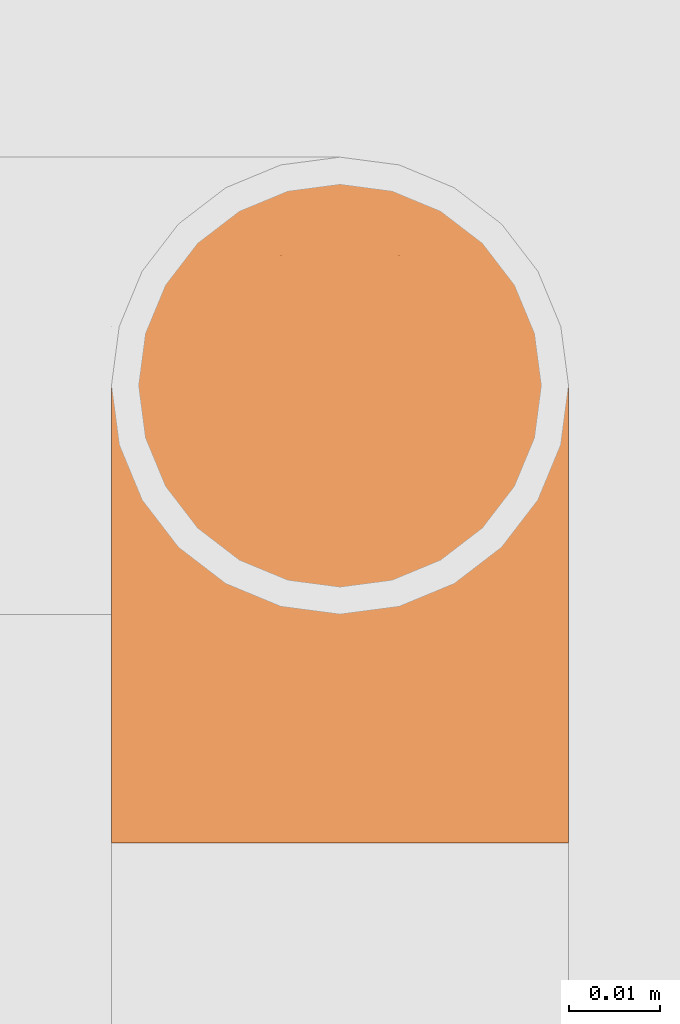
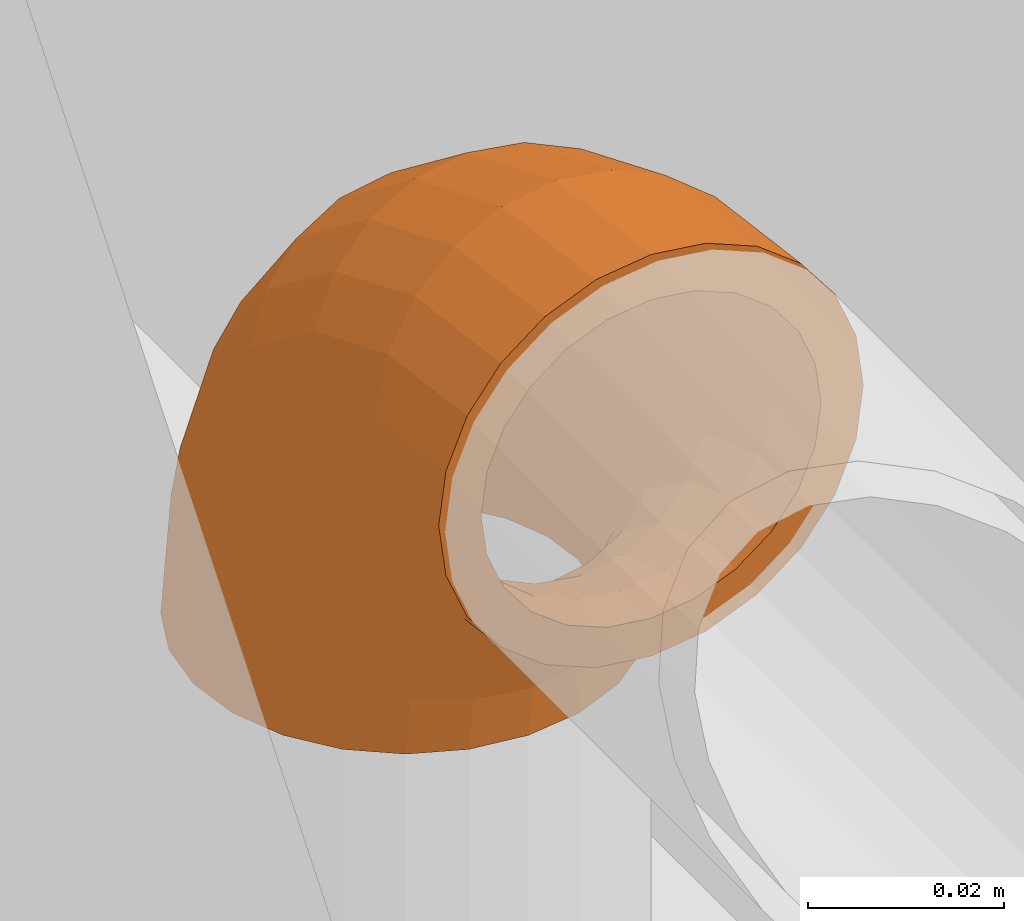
# One storey, part 110 of 112: 1 proxy.
"""IFC2X3 building model written with IfcOpenShell, lengths in millimetres."""

from ifc_helpers import new_model, entity, si_unit, converted_unit, derived_unit, money_unit, direction, frame, origin_with_axes, place, context, subcontext, project, spatial, faceted_brep, type_object, element, save


model = new_model("IFC2X3")

# Units and contexts
model_context = context("Model", 3, precision=0.01, world=origin_with_axes(), true_north=direction((0.0, 1.0)))
body_context = subcontext(model_context, "Body", "Model", "MODEL_VIEW")
ifc_project = project(units=[si_unit("LENGTHUNIT", "METRE", prefix="MILLI"), si_unit("AREAUNIT", "SQUARE_METRE"), si_unit("VOLUMEUNIT", "CUBIC_METRE"), converted_unit("PLANEANGLEUNIT", "DEGREE", entity("IfcPlaneAngleMeasure", 0.0174532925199), si_unit("PLANEANGLEUNIT", "RADIAN"), dimensions=[0, 0, 0, 0, 0, 0, 0]), si_unit("SOLIDANGLEUNIT", "STERADIAN"), money_unit("EUR"), converted_unit("TIMEUNIT", "Year", entity("IfcTimeMeasure", 31556926.0), si_unit("TIMEUNIT", "SECOND"), dimensions=[0, 0, 1, 0, 0, 0, 0]), si_unit("MASSUNIT", "GRAM", prefix="KILO"), si_unit("THERMODYNAMICTEMPERATUREUNIT", "DEGREE_CELSIUS"), si_unit("LUMINOUSINTENSITYUNIT", "LUMEN"), si_unit("ENERGYUNIT", "JOULE", prefix="MEGA"), derived_unit("THERMALCONDUCTANCEUNIT", [(si_unit("POWERUNIT", "WATT"), 1), (si_unit("LENGTHUNIT", "METRE"), -1), (si_unit("THERMODYNAMICTEMPERATUREUNIT", "KELVIN"), -1)]), derived_unit("SPECIFICHEATCAPACITYUNIT", [(si_unit("ENERGYUNIT", "JOULE"), 1), (si_unit("MASSUNIT", "GRAM", prefix="KILO"), -1), (si_unit("THERMODYNAMICTEMPERATUREUNIT", "KELVIN"), -1)]), derived_unit("MASSDENSITYUNIT", [(si_unit("MASSUNIT", "GRAM", prefix="KILO"), 1), (si_unit("VOLUMEUNIT", "CUBIC_METRE"), -1)])], contexts=[model_context])

# Site, building, storey
site_placement = place(None, origin_with_axes())
site = spatial("IfcSite", under=ifc_project, at=site_placement, Name="Politse- ja Piirivalveameti ning Päästeameti ühishoone", CompositionType="ELEMENT")
building_placement = place(site_placement, origin_with_axes())
building = spatial("IfcBuilding", under=site, at=building_placement, Name="Politse- ja Piirivalveameti ning Päästeameti ühishoone", CompositionType="ELEMENT")
storey_placement = place(building_placement, origin_with_axes())
storey = spatial("IfcBuildingStorey", under=building, at=storey_placement, Name="Esimene korrus", CompositionType="ELEMENT", Elevation=0.0)

# Proxy
building_element_proxy_type = type_object("IfcBuildingElementProxyType", Name="Elbow Tube 23", PredefinedType="NOTDEFINED")
proxy_placement = place(storey_placement, frame((63110.6441918, 20253.9447321, 2875.0), z_axis=(0.0, 0.0, 1.0), x_axis=(0.0, 1.0, 0.0)))
element("IfcBuildingElementProxy", 1, at=proxy_placement, inside=storey, type_object=building_element_proxy_type, Name="Balloon Novec 1232", context=body_context, shape_type="Brep", body=[
    faceted_brep([(-24.1481456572, 6.47047612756, 0.0), (-21.6506350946, 12.5, 0.0), (-17.6776695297, 17.6776695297, 0.0), (-12.5, 21.6506350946, 0.0), (-6.47047612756, 24.1481456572, 0.0), (0.0, 25.0, 0.0), (6.47047612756, 24.1481456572, 0.0), (12.5, 21.6506350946, 0.0), (17.6776695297, 17.6776695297, 0.0), (21.6506350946, 12.5, 0.0), (24.1481456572, 6.47047612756, 0.0), (25.0, 0.0, 0.0), (24.1481456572, -6.47047612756, 0.0), (21.6506350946, -12.5, 0.0), (17.6776695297, -17.6776695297, 0.0), (12.5, -21.6506350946, 0.0), (6.47047612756, -24.1481456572, 0.0), (0.0, -25.0, 0.0), (-6.47047612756, -24.1481456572, 0.0), (-12.5, -21.6506350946, 0.0), (-17.6776695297, -17.6776695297, 0.0), (-21.6506350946, -12.5, 0.0), (-24.1481456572, -6.47047612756, 0.0), (-25.0, 0.0, 0.0), (-17.6107524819, -10.0, 0.0), (-14.4606088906, -14.1421356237, 0.0), (-10.3552618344, -17.3205080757, 0.0), (-5.57448393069, -19.3185165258, 0.0), (-0.444077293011, -20.0, 0.0), (4.68632934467, -19.3185165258, 0.0), (9.46710724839, -17.3205080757, 0.0), (13.5724543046, -14.1421356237, 0.0), (16.7225978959, -10.0, 0.0), (18.7028609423, -5.17638090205, 0.0), (19.3782917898, 0.0, 0.0), (18.7028609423, 5.17638090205, 0.0), (16.7225978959, 10.0, 0.0), (13.5724543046, 14.1421356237, 0.0), (9.46710724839, 17.3205080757, 0.0), (4.68632934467, 19.3185165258, 0.0), (-0.444077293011, 20.0, 0.0), (-5.57448393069, 19.3185165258, 0.0), (-10.3552618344, 17.3205080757, 0.0), (-14.4606088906, 14.1421356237, 0.0), (-17.6107524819, 10.0, 0.0), (-19.5910155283, 5.17638090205, 0.0), (-20.2664463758, 0.0, 0.0), (-19.5910155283, -5.17638090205, 0.0), (-22.616616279, 12.5, 7.33735555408), (-25.0290262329, 6.47047612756, 6.69095225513), (-18.7790262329, 17.6776695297, 8.36563470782), (-13.7777815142, 21.6506350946, 9.70571419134), (-7.95370868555, 24.1481456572, 11.2662698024), (-1.70370868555, 25.0, 12.9409522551), (4.54629131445, 24.1481456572, 14.6156347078), (10.3703641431, 21.6506350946, 16.1761903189), (15.3716088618, 17.6776695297, 17.5162698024), (19.2091989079, 12.5, 18.5445489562), (21.6216088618, 6.47047612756, 19.1909522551), (22.4444369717, 0.0, 19.4114283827), (21.6216088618, -6.47047612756, 19.1909522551), (19.2091989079, -12.5, 18.5445489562), (15.3716088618, -17.6776695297, 17.5162698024), (10.3703641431, -21.6506350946, 16.1761903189), (4.54629131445, -24.1481456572, 14.6156347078), (-1.70370868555, -25.0, 12.9409522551), (-7.95370868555, -24.1481456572, 11.2662698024), (-13.7777815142, -21.6506350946, 9.70571419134), (-18.7790262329, -17.6776695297, 8.36563470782), (-22.616616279, -12.5, 7.33735555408), (-25.0290262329, -6.47047612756, 6.69095225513), (-25.8518543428, 0.0, 6.47047612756), (-17.9956460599, -10.0, 6.60836752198), (-14.8829368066, -14.1421356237, 7.25109028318), (-10.8263751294, -17.3205080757, 8.08870289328), (-6.10240900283, -19.3185165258, 9.06412343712), (-1.03296891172, -20.0, 10.1108786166), (4.03647117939, -19.3185165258, 11.1576337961), (8.76043730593, -17.3205080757, 12.1330543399), (12.8169989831, -14.1421356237, 12.97066695), (15.9297082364, -10.0, 13.6133897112), (17.8864390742, -5.17638090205, 14.0174221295), (18.5538435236, 0.0, 14.1552300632), (17.8864390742, 5.17638090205, 14.0174221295), (15.9297082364, 10.0, 13.6133897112), (12.8169989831, 14.1421356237, 12.97066695), (8.76043730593, 17.3205080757, 12.1330543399), (4.03647117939, 19.3185165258, 11.1576337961), (-1.03296891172, 20.0, 10.1108786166), (-6.10240900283, 19.3185165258, 9.06412343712), (-10.8263751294, 17.3205080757, 8.08870289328), (-14.8829368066, 14.1421356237, 7.25109028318), (-17.9956460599, 10.0, 6.60836752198), (-19.9523768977, 5.17638090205, 6.2043351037), (-20.619781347, 0.0, 6.06652716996), (-19.9523768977, -5.17638090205, 6.2043351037), (-25.4487298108, 12.5, 14.1746824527), (-27.6116374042, 6.47047612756, 12.9259271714), (-22.0080407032, 17.6776695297, 16.1611652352), (-17.5240473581, 21.6506350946, 18.75), (-12.3023265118, 24.1481456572, 21.7647619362), (-6.69872981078, 25.0, 25.0), (-1.09513310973, 24.1481456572, 28.2352380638), (4.12658773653, 21.6506350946, 31.25), (8.61058108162, 17.6776695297, 33.8388347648), (12.0512701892, 12.5, 35.8253175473), (14.2141777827, 6.47047612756, 37.0740728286), (14.9519052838, 0.0, 37.5), (14.2141777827, -6.47047612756, 37.0740728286), (12.0512701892, -12.5, 35.8253175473), (8.61058108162, -17.6776695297, 33.8388347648), (4.12658773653, -21.6506350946, 31.25), (-1.09513310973, -24.1481456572, 28.2352380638), (-6.69872981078, -25.0, 25.0), (-12.3023265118, -24.1481456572, 21.7647619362), (-17.5240473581, -21.6506350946, 18.75), (-22.0080407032, -17.6776695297, 16.1611652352), (-25.4487298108, -12.5, 14.1746824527), (-27.6116374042, -6.47047612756, 12.9259271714), (-28.3493649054, 0.0, 12.5), (-18.4378578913, -14.1421356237, 17.0181556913), (-21.2354657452, -10.0, 15.5096989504), (-14.7919443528, -17.3205080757, 18.9840147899), (-10.5461881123, -19.3185165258, 21.2733061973), (-5.98993044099, -20.0, 23.7300184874), (-1.43367276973, -19.3185165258, 26.1867307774), (2.81208347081, -17.3205080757, 28.4760221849), (6.45799700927, -14.1421356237, 30.4418812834), (9.25560486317, -10.0, 31.9503380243), (11.0142546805, -5.17638090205, 32.8985935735), (11.6140973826, 0.0, 33.2220258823), (11.0142546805, 5.17638090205, 32.8985935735), (9.25560486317, 10.0, 31.9503380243), (6.45799700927, 14.1421356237, 30.4418812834), (2.81208347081, 17.3205080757, 28.4760221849), (-1.43367276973, 19.3185165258, 26.1867307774), (-5.98993044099, 20.0, 23.7300184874), (-10.5461881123, 19.3185165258, 21.2733061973), (-14.7919443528, 17.3205080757, 18.9840147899), (-18.4378578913, 14.1421356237, 17.0181556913), (-21.2354657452, 10.0, 15.5096989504), (-22.9941155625, 5.17638090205, 14.5614434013), (-23.5939582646, 0.0, 14.2380110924), (-22.9941155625, -5.17638090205, 14.5614434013), (-29.9539718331, 12.5, 20.0460281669), (-31.719978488, 6.47047612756, 18.280021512), (-27.1446609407, 17.6776695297, 22.8553390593), (-23.4834957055, 21.6506350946, 26.5165042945), (-19.219978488, 24.1481456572, 30.780021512), (-14.6446609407, 25.0, 35.3553390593), (-10.0693433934, 24.1481456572, 39.9306566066), (-5.80582617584, 21.6506350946, 44.1941738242), (-2.14466094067, 17.6776695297, 47.8553390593), (0.664649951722, 12.5, 50.6646499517), (2.43065660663, 6.47047612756, 52.4306566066), (3.03300858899, 0.0, 53.033008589), (2.43065660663, -6.47047612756, 52.4306566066), (0.664649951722, -12.5, 50.6646499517), (-2.14466094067, -17.6776695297, 47.8553390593), (-5.80582617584, -21.6506350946, 44.1941738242), (-10.0693433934, -24.1481456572, 39.9306566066), (-14.6446609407, -25.0, 35.3553390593), (-19.219978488, -24.1481456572, 30.780021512), (-23.4834957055, -21.6506350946, 26.5165042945), (-27.1446609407, -17.6776695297, 22.8553390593), (-29.9539718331, -12.5, 20.0460281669), (-31.719978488, -6.47047612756, 18.280021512), (-32.3223304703, 0.0, 17.6776695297), (-24.6446609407, -14.1421356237, 25.3553390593), (-26.8921096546, -10.0, 23.1078903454), (-21.7157287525, -17.3205080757, 28.2842712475), (-18.3049149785, -19.3185165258, 31.6950850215), (-14.6446609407, -20.0, 35.3553390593), (-10.9844069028, -19.3185165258, 39.0155930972), (-7.57359312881, -17.3205080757, 42.4264068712), (-4.64466094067, -14.1421356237, 45.3553390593), (-2.39721222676, -10.0, 47.6027877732), (-0.984406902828, -5.17638090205, 49.0155930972), (-0.502525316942, 0.0, 49.4974746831), (-0.984406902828, 5.17638090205, 49.0155930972), (-2.39721222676, 10.0, 47.6027877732), (-4.64466094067, 14.1421356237, 45.3553390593), (-7.57359312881, 17.3205080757, 42.4264068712), (-10.9844069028, 19.3185165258, 39.0155930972), (-14.6446609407, 20.0, 35.3553390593), (-18.3049149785, 19.3185165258, 31.6950850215), (-21.7157287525, 17.3205080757, 28.2842712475), (-24.6446609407, 14.1421356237, 25.3553390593), (-26.8921096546, 10.0, 23.1078903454), (-28.3049149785, 5.17638090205, 21.6950850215), (-28.7867965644, 0.0, 21.2132034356), (-28.3049149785, -5.17638090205, 21.6950850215), (-35.8253175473, 12.5, 24.5512701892), (-37.0740728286, 6.47047612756, 22.3883625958), (-33.8388347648, 17.6776695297, 27.9919592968), (-31.25, 21.6506350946, 32.4759526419), (-28.2352380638, 24.1481456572, 37.6976734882), (-25.0, 25.0, 43.3012701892), (-21.7647619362, 24.1481456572, 48.9048668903), (-18.75, 21.6506350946, 54.1265877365), (-16.1611652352, 17.6776695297, 58.6105810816), (-14.1746824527, 12.5, 62.0512701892), (-12.9259271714, 6.47047612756, 64.2141777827), (-12.5, 0.0, 64.9519052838), (-12.9259271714, -6.47047612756, 64.2141777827), (-14.1746824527, -12.5, 62.0512701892), (-16.1611652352, -17.6776695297, 58.6105810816), (-18.75, -21.6506350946, 54.1265877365), (-21.7647619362, -24.1481456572, 48.9048668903), (-25.0, -25.0, 43.3012701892), (-28.2352380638, -24.1481456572, 37.6976734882), (-31.25, -21.6506350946, 32.4759526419), (-33.8388347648, -17.6776695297, 27.9919592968), (-35.8253175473, -12.5, 24.5512701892), (-37.0740728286, -6.47047612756, 22.3883625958), (-37.5, 0.0, 21.6506350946), (-32.9818443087, -14.1421356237, 31.5621421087), (-34.4903010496, -10.0, 28.7645342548), (-31.0159852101, -17.3205080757, 35.2080556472), (-28.7266938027, -19.3185165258, 39.4538118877), (-26.2699815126, -20.0, 44.010069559), (-23.8132692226, -19.3185165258, 48.5663272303), (-21.5239778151, -17.3205080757, 52.8120834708), (-19.5581187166, -14.1421356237, 56.4579970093), (-18.0496619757, -10.0, 59.2556048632), (-17.1014064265, -5.17638090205, 61.0142546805), (-16.7779741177, 0.0, 61.6140973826), (-17.1014064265, 5.17638090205, 61.0142546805), (-18.0496619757, 10.0, 59.2556048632), (-19.5581187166, 14.1421356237, 56.4579970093), (-21.5239778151, 17.3205080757, 52.8120834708), (-23.8132692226, 19.3185165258, 48.5663272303), (-26.2699815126, 20.0, 44.010069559), (-28.7266938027, 19.3185165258, 39.4538118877), (-31.0159852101, 17.3205080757, 35.2080556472), (-32.9818443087, 14.1421356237, 31.5621421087), (-34.4903010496, 10.0, 28.7645342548), (-35.4385565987, 5.17638090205, 27.0058844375), (-35.7619889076, 0.0, 26.4060417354), (-35.4385565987, -5.17638090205, 27.0058844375), (-42.6626444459, 12.5, 27.383383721), (-43.3090477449, 6.47047612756, 24.9709737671), (-41.6343652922, 17.6776695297, 31.2209737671), (-40.2942858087, 21.6506350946, 36.2222184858), (-38.7337301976, 24.1481456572, 42.0462913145), (-37.0590477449, 25.0, 48.2962913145), (-35.3843652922, 24.1481456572, 54.5462913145), (-33.8238096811, 21.6506350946, 60.3703641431), (-32.4837301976, 17.6776695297, 65.3716088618), (-31.4554510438, 12.5, 69.2091989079), (-30.8090477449, 6.47047612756, 71.6216088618), (-30.5885716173, 0.0, 72.4444369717), (-30.8090477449, -6.47047612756, 71.6216088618), (-31.4554510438, -12.5, 69.2091989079), (-32.4837301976, -17.6776695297, 65.3716088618), (-33.8238096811, -21.6506350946, 60.3703641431), (-35.3843652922, -24.1481456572, 54.5462913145), (-37.0590477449, -25.0, 48.2962913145), (-38.7337301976, -24.1481456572, 42.0462913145), (-40.2942858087, -21.6506350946, 36.2222184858), (-41.6343652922, -17.6776695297, 31.2209737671), (-42.6626444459, -12.5, 27.383383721), (-43.3090477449, -6.47047612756, 24.9709737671), (-43.5295238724, 0.0, 24.1481456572), (-42.7489097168, -14.1421356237, 35.1170631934), (-43.391632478, -10.0, 32.0043539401), (-41.9112971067, -17.3205080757, 39.1736248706), (-40.9358765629, -19.3185165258, 43.8975909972), (-39.8891213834, -20.0, 48.9670310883), (-38.8423662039, -19.3185165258, 54.0364711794), (-37.8669456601, -17.3205080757, 58.7604373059), (-37.02933305, -14.1421356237, 62.8169989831), (-36.3866102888, -10.0, 65.9297082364), (-35.9825778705, -5.17638090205, 67.8864390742), (-35.8447699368, 0.0, 68.5538435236), (-35.9825778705, 5.17638090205, 67.8864390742), (-36.3866102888, 10.0, 65.9297082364), (-37.02933305, 14.1421356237, 62.8169989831), (-37.8669456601, 17.3205080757, 58.7604373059), (-38.8423662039, 19.3185165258, 54.0364711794), (-39.8891213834, 20.0, 48.9670310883), (-40.9358765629, 19.3185165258, 43.8975909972), (-41.9112971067, 17.3205080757, 39.1736248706), (-42.7489097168, 14.1421356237, 35.1170631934), (-43.391632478, 10.0, 32.0043539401), (-43.7956648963, 5.17638090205, 30.0476231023), (-43.93347283, 0.0, 29.380218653), (-43.7956648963, -5.17638090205, 30.0476231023), (-50.0, 12.5, 28.3493649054), (-50.0, 6.47047612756, 25.8518543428), (-50.0, 17.6776695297, 32.3223304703), (-50.0, 21.6506350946, 37.5), (-50.0, 24.1481456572, 43.5295238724), (-50.0, 25.0, 50.0), (-50.0, 24.1481456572, 56.4704761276), (-50.0, 21.6506350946, 62.5), (-50.0, 17.6776695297, 67.6776695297), (-50.0, 12.5, 71.6506350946), (-50.0, 6.47047612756, 74.1481456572), (-50.0, 0.0, 75.0), (-50.0, -6.47047612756, 74.1481456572), (-50.0, -12.5, 71.6506350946), (-50.0, -17.6776695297, 67.6776695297), (-50.0, -21.6506350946, 62.5), (-50.0, -24.1481456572, 56.4704761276), (-50.0, -25.0, 50.0), (-50.0, -24.1481456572, 43.5295238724), (-50.0, -21.6506350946, 37.5), (-50.0, -17.6776695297, 32.3223304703), (-50.0, -12.5, 28.3493649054), (-50.0, -6.47047612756, 25.8518543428), (-50.0, 0.0, 25.0), (-50.0, -14.1421356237, 35.5393911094), (-50.0, -10.0, 32.3892475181), (-50.0, -17.3205080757, 39.6447381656), (-50.0, -19.3185165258, 44.4255160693), (-50.0, -20.0, 49.555922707), (-50.0, -19.3185165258, 54.6863293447), (-50.0, -17.3205080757, 59.4671072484), (-50.0, -14.1421356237, 63.5724543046), (-50.0, -10.0, 66.7225978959), (-50.0, -5.17638090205, 68.7028609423), (-50.0, 0.0, 69.3782917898), (-50.0, 5.17638090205, 68.7028609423), (-50.0, 10.0, 66.7225978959), (-50.0, 14.1421356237, 63.5724543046), (-50.0, 17.3205080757, 59.4671072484), (-50.0, 19.3185165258, 54.6863293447), (-50.0, 20.0, 49.555922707), (-50.0, 19.3185165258, 44.4255160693), (-50.0, 17.3205080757, 39.6447381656), (-50.0, 14.1421356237, 35.5393911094), (-50.0, 10.0, 32.3892475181), (-50.0, 5.17638090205, 30.4089844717), (-50.0, 0.0, 29.7335536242), (-50.0, -5.17638090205, 30.4089844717)], [[[0, 1, 2, 3, 4, 5, 6, 7, 8, 9, 10, 11, 12, 13, 14, 15, 16, 17, 18, 19, 20, 21, 22, 23], [24, 25, 26, 27, 28, 29, 30, 31, 32, 33, 34, 35, 36, 37, 38, 39, 40, 41, 42, 43, 44, 45, 46, 47]], [[48, 1, 0, 49]], [[50, 2, 1, 48]], [[51, 3, 2, 50]], [[52, 4, 3, 51]], [[53, 5, 4, 52]], [[54, 6, 5, 53]], [[55, 7, 6, 54]], [[56, 8, 7, 55]], [[57, 9, 8, 56]], [[58, 10, 9, 57]], [[59, 11, 10, 58]], [[60, 12, 11, 59]], [[61, 13, 12, 60]], [[62, 14, 13, 61]], [[63, 15, 14, 62]], [[64, 16, 15, 63]], [[65, 17, 16, 64]], [[66, 18, 17, 65]], [[67, 19, 18, 66]], [[68, 20, 19, 67]], [[69, 21, 20, 68]], [[70, 22, 21, 69]], [[71, 23, 22, 70]], [[49, 0, 23, 71]], [[24, 72, 73, 25]], [[25, 73, 74, 26]], [[26, 74, 75, 27]], [[27, 75, 76, 28]], [[28, 76, 77, 29]], [[29, 77, 78, 30]], [[30, 78, 79, 31]], [[31, 79, 80, 32]], [[32, 80, 81, 33]], [[33, 81, 82, 34]], [[34, 82, 83, 35]], [[35, 83, 84, 36]], [[36, 84, 85, 37]], [[37, 85, 86, 38]], [[38, 86, 87, 39]], [[39, 87, 88, 40]], [[40, 88, 89, 41]], [[41, 89, 90, 42]], [[42, 90, 91, 43]], [[43, 91, 92, 44]], [[44, 92, 93, 45]], [[45, 93, 94, 46]], [[46, 94, 95, 47]], [[47, 95, 72, 24]], [[96, 48, 49, 97]], [[98, 50, 48, 96]], [[99, 51, 50, 98]], [[100, 52, 51, 99]], [[101, 53, 52, 100]], [[102, 54, 53, 101]], [[103, 55, 54, 102]], [[104, 56, 55, 103]], [[105, 57, 56, 104]], [[106, 58, 57, 105]], [[107, 59, 58, 106]], [[108, 60, 59, 107]], [[109, 61, 60, 108]], [[110, 62, 61, 109]], [[111, 63, 62, 110]], [[112, 64, 63, 111]], [[113, 65, 64, 112]], [[114, 66, 65, 113]], [[115, 67, 66, 114]], [[116, 68, 67, 115]], [[117, 69, 68, 116]], [[118, 70, 69, 117]], [[119, 71, 70, 118]], [[97, 49, 71, 119]], [[120, 73, 72, 121]], [[122, 74, 73, 120]], [[123, 75, 74, 122]], [[124, 76, 75, 123]], [[125, 77, 76, 124]], [[126, 78, 77, 125]], [[127, 79, 78, 126]], [[128, 80, 79, 127]], [[129, 81, 80, 128]], [[130, 82, 81, 129]], [[131, 83, 82, 130]], [[132, 84, 83, 131]], [[133, 85, 84, 132]], [[134, 86, 85, 133]], [[135, 87, 86, 134]], [[136, 88, 87, 135]], [[137, 89, 88, 136]], [[138, 90, 89, 137]], [[139, 91, 90, 138]], [[140, 92, 91, 139]], [[141, 93, 92, 140]], [[142, 94, 93, 141]], [[143, 95, 94, 142]], [[121, 72, 95, 143]], [[144, 96, 97, 145]], [[146, 98, 96, 144]], [[147, 99, 98, 146]], [[148, 100, 99, 147]], [[149, 101, 100, 148]], [[150, 102, 101, 149]], [[151, 103, 102, 150]], [[152, 104, 103, 151]], [[153, 105, 104, 152]], [[154, 106, 105, 153]], [[155, 107, 106, 154]], [[156, 108, 107, 155]], [[157, 109, 108, 156]], [[158, 110, 109, 157]], [[159, 111, 110, 158]], [[160, 112, 111, 159]], [[161, 113, 112, 160]], [[162, 114, 113, 161]], [[163, 115, 114, 162]], [[164, 116, 115, 163]], [[165, 117, 116, 164]], [[166, 118, 117, 165]], [[167, 119, 118, 166]], [[145, 97, 119, 167]], [[168, 120, 121, 169]], [[170, 122, 120, 168]], [[171, 123, 122, 170]], [[172, 124, 123, 171]], [[173, 125, 124, 172]], [[174, 126, 125, 173]], [[175, 127, 126, 174]], [[176, 128, 127, 175]], [[177, 129, 128, 176]], [[178, 130, 129, 177]], [[179, 131, 130, 178]], [[180, 132, 131, 179]], [[181, 133, 132, 180]], [[182, 134, 133, 181]], [[183, 135, 134, 182]], [[184, 136, 135, 183]], [[185, 137, 136, 184]], [[186, 138, 137, 185]], [[187, 139, 138, 186]], [[188, 140, 139, 187]], [[189, 141, 140, 188]], [[190, 142, 141, 189]], [[191, 143, 142, 190]], [[169, 121, 143, 191]], [[192, 144, 145, 193]], [[194, 146, 144, 192]], [[195, 147, 146, 194]], [[196, 148, 147, 195]], [[197, 149, 148, 196]], [[198, 150, 149, 197]], [[199, 151, 150, 198]], [[200, 152, 151, 199]], [[201, 153, 152, 200]], [[202, 154, 153, 201]], [[203, 155, 154, 202]], [[204, 156, 155, 203]], [[205, 157, 156, 204]], [[206, 158, 157, 205]], [[207, 159, 158, 206]], [[208, 160, 159, 207]], [[209, 161, 160, 208]], [[210, 162, 161, 209]], [[211, 163, 162, 210]], [[212, 164, 163, 211]], [[213, 165, 164, 212]], [[214, 166, 165, 213]], [[215, 167, 166, 214]], [[193, 145, 167, 215]], [[216, 168, 169, 217]], [[218, 170, 168, 216]], [[219, 171, 170, 218]], [[220, 172, 171, 219]], [[221, 173, 172, 220]], [[222, 174, 173, 221]], [[223, 175, 174, 222]], [[224, 176, 175, 223]], [[225, 177, 176, 224]], [[226, 178, 177, 225]], [[227, 179, 178, 226]], [[228, 180, 179, 227]], [[229, 181, 180, 228]], [[230, 182, 181, 229]], [[231, 183, 182, 230]], [[232, 184, 183, 231]], [[233, 185, 184, 232]], [[234, 186, 185, 233]], [[235, 187, 186, 234]], [[236, 188, 187, 235]], [[237, 189, 188, 236]], [[238, 190, 189, 237]], [[239, 191, 190, 238]], [[217, 169, 191, 239]], [[240, 192, 193, 241]], [[242, 194, 192, 240]], [[243, 195, 194, 242]], [[244, 196, 195, 243]], [[245, 197, 196, 244]], [[246, 198, 197, 245]], [[247, 199, 198, 246]], [[248, 200, 199, 247]], [[249, 201, 200, 248]], [[250, 202, 201, 249]], [[251, 203, 202, 250]], [[252, 204, 203, 251]], [[253, 205, 204, 252]], [[254, 206, 205, 253]], [[255, 207, 206, 254]], [[256, 208, 207, 255]], [[257, 209, 208, 256]], [[258, 210, 209, 257]], [[259, 211, 210, 258]], [[260, 212, 211, 259]], [[261, 213, 212, 260]], [[262, 214, 213, 261]], [[263, 215, 214, 262]], [[241, 193, 215, 263]], [[264, 216, 217, 265]], [[266, 218, 216, 264]], [[267, 219, 218, 266]], [[268, 220, 219, 267]], [[269, 221, 220, 268]], [[270, 222, 221, 269]], [[271, 223, 222, 270]], [[272, 224, 223, 271]], [[273, 225, 224, 272]], [[274, 226, 225, 273]], [[275, 227, 226, 274]], [[276, 228, 227, 275]], [[277, 229, 228, 276]], [[278, 230, 229, 277]], [[279, 231, 230, 278]], [[280, 232, 231, 279]], [[281, 233, 232, 280]], [[282, 234, 233, 281]], [[283, 235, 234, 282]], [[284, 236, 235, 283]], [[285, 237, 236, 284]], [[286, 238, 237, 285]], [[287, 239, 238, 286]], [[265, 217, 239, 287]], [[288, 240, 241, 289]], [[290, 242, 240, 288]], [[291, 243, 242, 290]], [[292, 244, 243, 291]], [[293, 245, 244, 292]], [[294, 246, 245, 293]], [[295, 247, 246, 294]], [[296, 248, 247, 295]], [[297, 249, 248, 296]], [[298, 250, 249, 297]], [[299, 251, 250, 298]], [[300, 252, 251, 299]], [[301, 253, 252, 300]], [[302, 254, 253, 301]], [[303, 255, 254, 302]], [[304, 256, 255, 303]], [[305, 257, 256, 304]], [[306, 258, 257, 305]], [[307, 259, 258, 306]], [[308, 260, 259, 307]], [[309, 261, 260, 308]], [[310, 262, 261, 309]], [[311, 263, 262, 310]], [[289, 241, 263, 311]], [[312, 264, 265, 313]], [[314, 266, 264, 312]], [[315, 267, 266, 314]], [[316, 268, 267, 315]], [[317, 269, 268, 316]], [[318, 270, 269, 317]], [[319, 271, 270, 318]], [[320, 272, 271, 319]], [[321, 273, 272, 320]], [[322, 274, 273, 321]], [[323, 275, 274, 322]], [[324, 276, 275, 323]], [[325, 277, 276, 324]], [[326, 278, 277, 325]], [[327, 279, 278, 326]], [[328, 280, 279, 327]], [[329, 281, 280, 328]], [[330, 282, 281, 329]], [[331, 283, 282, 330]], [[332, 284, 283, 331]], [[333, 285, 284, 332]], [[334, 286, 285, 333]], [[335, 287, 286, 334]], [[313, 265, 287, 335]], [[310, 309, 308, 307, 306, 305, 304, 303, 302, 301, 300, 299, 298, 297, 296, 295, 294, 293, 292, 291, 290, 288, 289, 311], [326, 325, 324, 323, 322, 321, 320, 319, 318, 317, 316, 315, 314, 312, 313, 335, 334, 333, 332, 331, 330, 329, 328, 327]]]),
])

save(model, "model.ifc")
